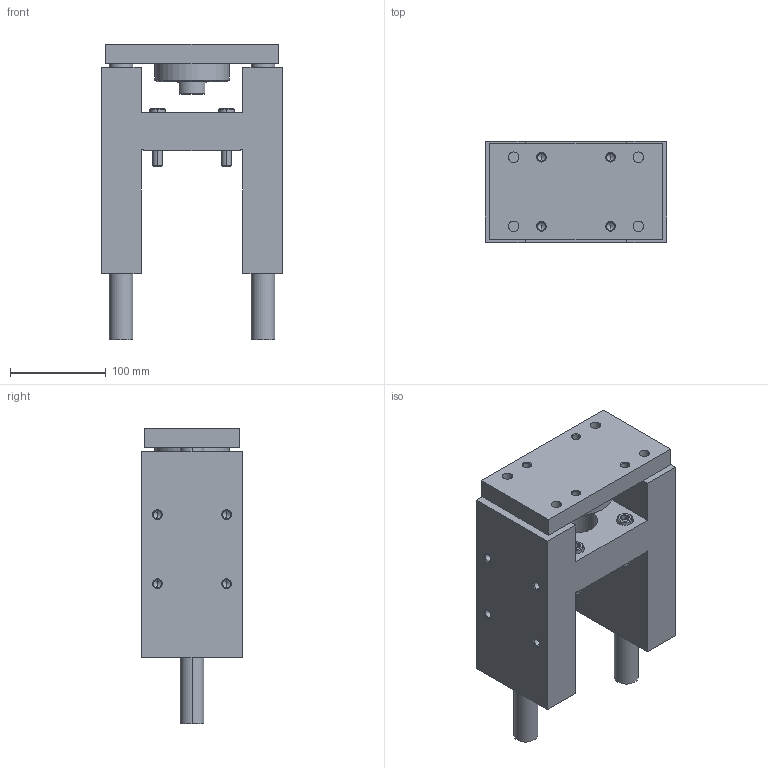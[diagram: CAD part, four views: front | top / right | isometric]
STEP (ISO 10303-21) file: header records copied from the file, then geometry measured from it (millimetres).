
FILE_DESCRIPTION (( 'STEP AP203' ), '1' );
FILE_NAME ('GB80-50.STEP', '2020-04-24T13:26:57', ( '' ), ( '' ), 'SwSTEP 2.0', 'SolidWorks 2019', '' );
FILE_SCHEMA (( 'CONFIG_CONTROL_DESIGN' ));
Length unit declared in the file: millimetre
Products named in the file (1): GB80-50
Bounding box: 189 x 105 x 308 mm (x, y, z)
Volume: 2745522.9 mm3; surface area: 327525.6 mm2
Topology: 6 solids, 6 shells, 329 faces, 728 edges, 412 vertices
Faces by surface type: cone 134, cylinder 98, plane 97
Entity records: 9631 total; most frequent: CARTESIAN_POINT 2242, DIRECTION 1662, ORIENTED_EDGE 1392, EDGE_CURVE 696, AXIS2_PLACEMENT_3D 664, VERTEX_POINT 412, EDGE_LOOP 392, VECTOR 334
